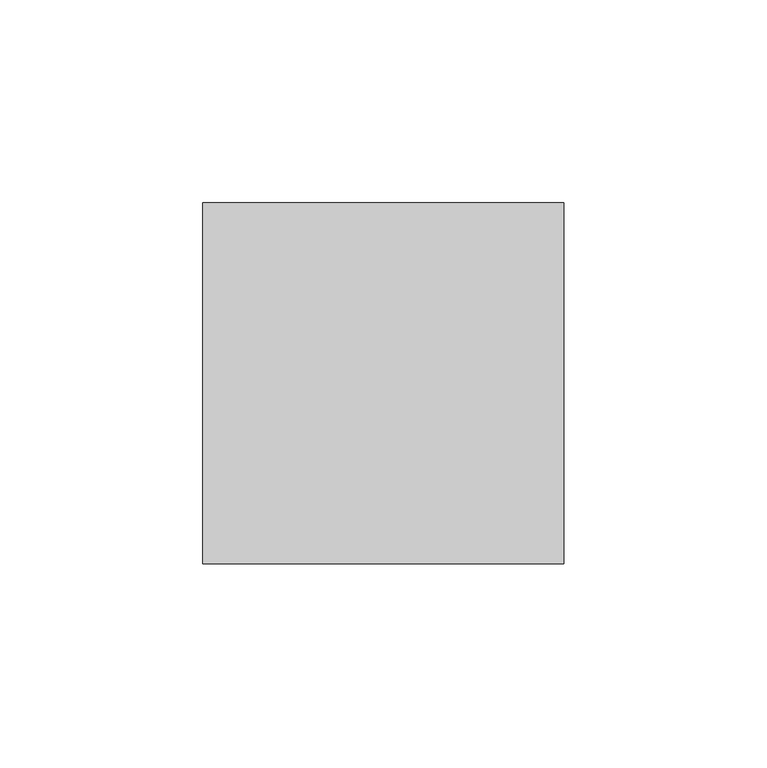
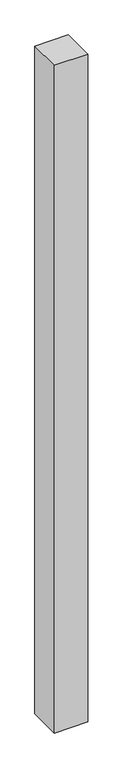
"""IFC4 building model written with IfcOpenShell, lengths in millimetres: column geometry, Trus Joist - TimberStrand LSL - Post Column : TimberStrand® 1.3E – 3 1/2 x 3 1/2”."""

from ifc_helpers import new_model, si_unit, frame, origin, place, context, project, spatial, polyline, outline, extrude, source, transform, mapped, element, save


def column_92b0873a(model_context):
    return source(origin(), model_context, "Body", "SweptSolid", [
        extrude(outline(polyline([(44.45, 44.45), (44.45, -44.45), (-44.45, -44.45), (-44.45, 44.45), (44.45, 44.45)])), frame((0.0, 0.0, 6057.9), z_axis=(0.0, 0.0, 1.0), x_axis=(1.0, 0.0, 0.0)), (0.0, 0.0, 1.0), 1873.25),
    ])


if __name__ == "__main__":
    model = new_model("IFC4")
    model_context = context("Model", 3, world=origin())
    ifc_project = project(units=[si_unit("LENGTHUNIT", "METRE", prefix="MILLI")], contexts=[model_context])
    site = spatial("IfcSite", under=ifc_project)
    building = spatial("IfcBuilding", under=site)
    placement = place(None, origin())
    column_shape = column_92b0873a(model_context)
    element("IfcColumn", 1, ObjectType="Trus Joist - TimberStrand LSL - Post Column : TimberStrand® 1.3E – 3 1/2 x 3 1/2”", at=placement, inside=building, context=model_context, shape_type="MappedRepresentation", body=[
        mapped(column_shape, transform((0.0, 0.0, 0.0), x_axis=(1.0, 0.0, 0.0), y_axis=(0.0, 1.0, 0.0), z_axis=(0.0, 0.0, 1.0))),
    ])
    save(model, "model.ifc")
